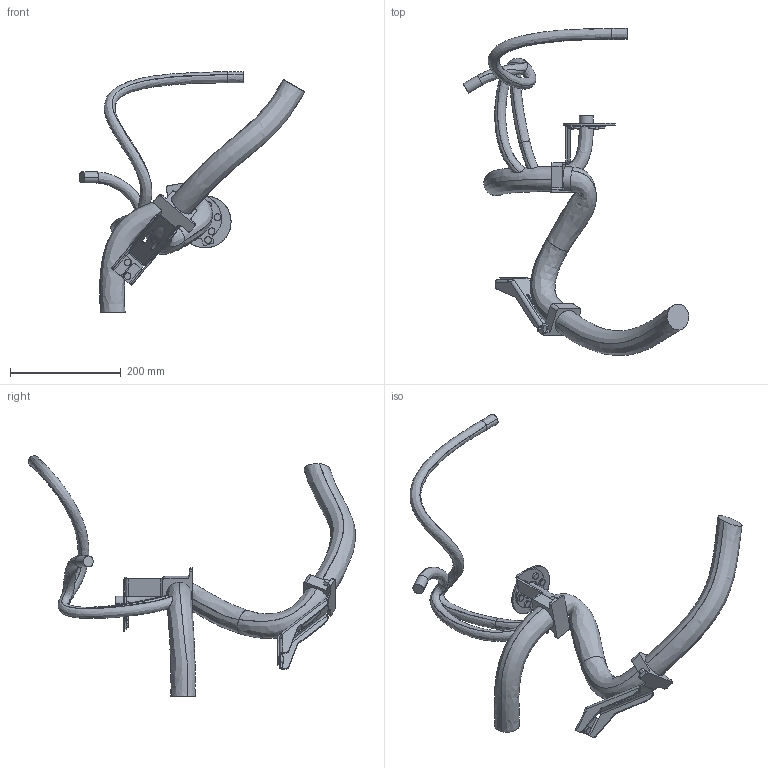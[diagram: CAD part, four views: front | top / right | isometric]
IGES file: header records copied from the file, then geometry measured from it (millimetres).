
Start section: SolidWorks IGES file using analytic representation for surfaces
Global section: file name: C:\Data\SAP_DOC\LW\IRB 6720\IRB6720-MH3_160kg-320_OC_01_SW_J\IRB6720-MH3_160kg-320_OC_01_IGES_J\IRB6720-MH3_160kg-320_OC_00_LINK01m_CABLE.igs; native system: SolidWorks 2024; preprocessor: SolidWorks 2024; author: SEJOVAS3; date: 260610.134057; units: millimetre
Bounding box: 408.06 x 591.18 x 434.33 mm (x, y, z)
Surface area: 267646.2 mm2 (no closed solid volume)
Topology: 0 solids, 0 shells, 279 faces, 4440 edges, 4440 vertices
Faces by surface type: bspline 172, revolution 107
